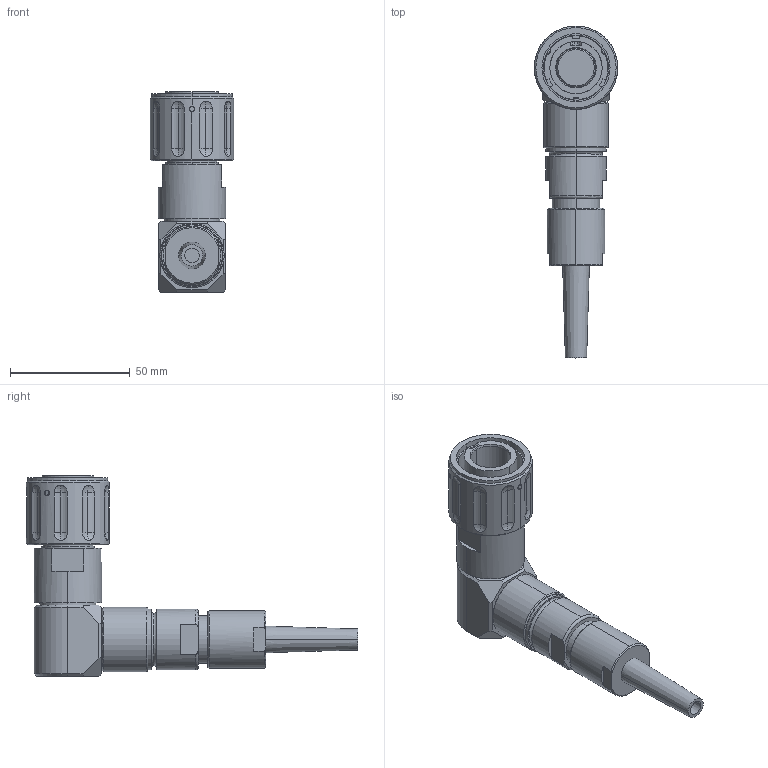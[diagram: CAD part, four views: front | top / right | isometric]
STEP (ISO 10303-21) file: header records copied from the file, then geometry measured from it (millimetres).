
FILE_DESCRIPTION (( 'STEP AP214' ), '1' );
FILE_NAME ('QLINK90-PGBX-15XX-SXXX-RA.STEP', '2025-12-09T16:09:13', ( '' ), ( '' ), 'SwSTEP 2.0', 'SolidWorks 2024', '' );
FILE_SCHEMA (( 'AUTOMOTIVE_DESIGN' ));
Length unit declared in the file: millimetre
Products named in the file (1): QLINK90-PGBX-15XX-SXXX-RA
Bounding box: 34.8 x 138.49 x 83.69 mm (x, y, z)
Volume: 90050.2 mm3; surface area: 23953.5 mm2
Topology: 5 solids, 7 shells, 295 faces, 668 edges, 420 vertices
Faces by surface type: cylinder 98, plane 84, cone 52, sphere 36, torus 13, bspline 12
Entity records: 13092 total; most frequent: CARTESIAN_POINT 6463, DIRECTION 1399, ORIENTED_EDGE 1336, EDGE_CURVE 668, AXIS2_PLACEMENT_3D 565, VERTEX_POINT 420, EDGE_LOOP 336, ADVANCED_FACE 295
